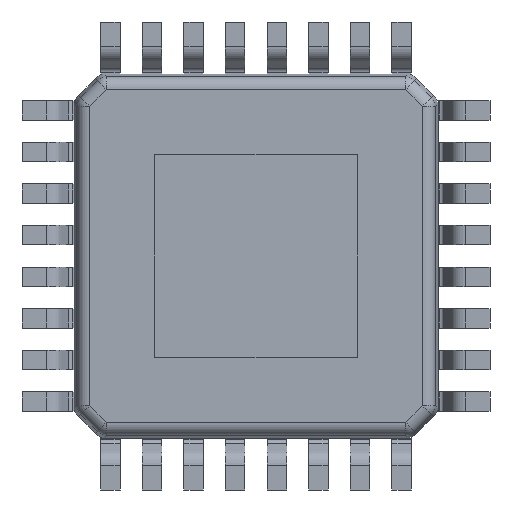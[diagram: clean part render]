
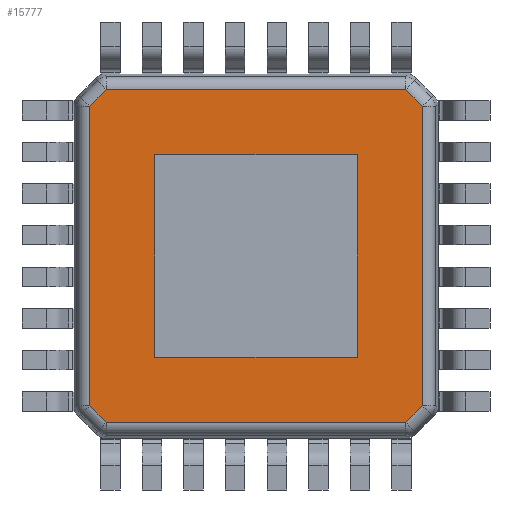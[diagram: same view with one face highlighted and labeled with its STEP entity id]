
A CAD part, front view. The second image highlights one B-rep face of the part: STEP entity #15777.
In plain terms, the highlighted planar face has unit normal (0, -1, 0).
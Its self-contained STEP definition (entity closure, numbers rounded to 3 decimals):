
#15706 = CARTESIAN_POINT ( 'NONE',  ( -3.201, 0.05, 2.876 ) ) ;
#15707 = VERTEX_POINT ( 'NONE', #15706 ) ;
#15708 = CARTESIAN_POINT ( 'NONE',  ( -3.201, 0.05, -2.876 ) ) ;
#15709 = VERTEX_POINT ( 'NONE', #15708 ) ;
#15710 = CARTESIAN_POINT ( 'NONE',  ( -3.201, 0.05, 0. ) ) ;
#15711 = DIRECTION ( 'NONE',  ( 0., 0., -1. ) ) ;
#15712 = VECTOR ( 'NONE', #15711, 1000. ) ;
#15713 = LINE ( 'NONE', #15710, #15712 ) ;
#15714 = EDGE_CURVE ( 'NONE', #15707, #15709, #15713, .T. ) ;
#15715 = ORIENTED_EDGE ( 'NONE', *, *, #15714, .T. ) ;
#15716 = CARTESIAN_POINT ( 'NONE',  ( -2.876, 0.05, -3.201 ) ) ;
#15717 = VERTEX_POINT ( 'NONE', #15716 ) ;
#15718 = CARTESIAN_POINT ( 'NONE',  ( -3.039, 0.05, -3.039 ) ) ;
#15719 = DIRECTION ( 'NONE',  ( 0.707, 0., -0.707 ) ) ;
#15720 = VECTOR ( 'NONE', #15719, 1000. ) ;
#15721 = LINE ( 'NONE', #15718, #15720 ) ;
#15722 = EDGE_CURVE ( 'NONE', #15709, #15717, #15721, .T. ) ;
#15723 = ORIENTED_EDGE ( 'NONE', *, *, #15722, .T. ) ;
#15724 = CARTESIAN_POINT ( 'NONE',  ( 2.876, 0.05, -3.201 ) ) ;
#15725 = VERTEX_POINT ( 'NONE', #15724 ) ;
#15726 = CARTESIAN_POINT ( 'NONE',  ( 0., 0.05, -3.201 ) ) ;
#15727 = DIRECTION ( 'NONE',  ( 1., 0., 0. ) ) ;
#15728 = VECTOR ( 'NONE', #15727, 1000. ) ;
#15729 = LINE ( 'NONE', #15726, #15728 ) ;
#15730 = EDGE_CURVE ( 'NONE', #15717, #15725, #15729, .T. ) ;
#15731 = ORIENTED_EDGE ( 'NONE', *, *, #15730, .T. ) ;
#15732 = CARTESIAN_POINT ( 'NONE',  ( 3.201, 0.05, -2.876 ) ) ;
#15733 = VERTEX_POINT ( 'NONE', #15732 ) ;
#15734 = CARTESIAN_POINT ( 'NONE',  ( 3.039, 0.05, -3.039 ) ) ;
#15735 = DIRECTION ( 'NONE',  ( 0.707, 0., 0.707 ) ) ;
#15736 = VECTOR ( 'NONE', #15735, 1000. ) ;
#15737 = LINE ( 'NONE', #15734, #15736 ) ;
#15738 = EDGE_CURVE ( 'NONE', #15725, #15733, #15737, .T. ) ;
#15739 = ORIENTED_EDGE ( 'NONE', *, *, #15738, .T. ) ;
#15740 = CARTESIAN_POINT ( 'NONE',  ( 3.201, 0.05, 2.876 ) ) ;
#15741 = VERTEX_POINT ( 'NONE', #15740 ) ;
#15742 = CARTESIAN_POINT ( 'NONE',  ( 3.201, 0.05, 0. ) ) ;
#15743 = DIRECTION ( 'NONE',  ( 0., 0., 1. ) ) ;
#15744 = VECTOR ( 'NONE', #15743, 1000. ) ;
#15745 = LINE ( 'NONE', #15742, #15744 ) ;
#15746 = EDGE_CURVE ( 'NONE', #15733, #15741, #15745, .T. ) ;
#15747 = ORIENTED_EDGE ( 'NONE', *, *, #15746, .T. ) ;
#15748 = CARTESIAN_POINT ( 'NONE',  ( 2.876, 0.05, 3.201 ) ) ;
#15749 = VERTEX_POINT ( 'NONE', #15748 ) ;
#15750 = CARTESIAN_POINT ( 'NONE',  ( 3.039, 0.05, 3.039 ) ) ;
#15751 = DIRECTION ( 'NONE',  ( -0.707, 0., 0.707 ) ) ;
#15752 = VECTOR ( 'NONE', #15751, 1000. ) ;
#15753 = LINE ( 'NONE', #15750, #15752 ) ;
#15754 = EDGE_CURVE ( 'NONE', #15741, #15749, #15753, .T. ) ;
#15755 = ORIENTED_EDGE ( 'NONE', *, *, #15754, .T. ) ;
#15756 = CARTESIAN_POINT ( 'NONE',  ( -2.876, 0.05, 3.201 ) ) ;
#15757 = VERTEX_POINT ( 'NONE', #15756 ) ;
#15758 = CARTESIAN_POINT ( 'NONE',  ( 0., 0.05, 3.201 ) ) ;
#15759 = DIRECTION ( 'NONE',  ( -1., 0., 0. ) ) ;
#15760 = VECTOR ( 'NONE', #15759, 1000. ) ;
#15761 = LINE ( 'NONE', #15758, #15760 ) ;
#15762 = EDGE_CURVE ( 'NONE', #15749, #15757, #15761, .T. ) ;
#15763 = ORIENTED_EDGE ( 'NONE', *, *, #15762, .T. ) ;
#15764 = CARTESIAN_POINT ( 'NONE',  ( -3.039, 0.05, 3.039 ) ) ;
#15765 = DIRECTION ( 'NONE',  ( -0.707, 0., -0.707 ) ) ;
#15766 = VECTOR ( 'NONE', #15765, 1000. ) ;
#15767 = LINE ( 'NONE', #15764, #15766 ) ;
#15768 = EDGE_CURVE ( 'NONE', #15757, #15707, #15767, .T. ) ;
#15769 = ORIENTED_EDGE ( 'NONE', *, *, #15768, .T. ) ;
#15770 = EDGE_LOOP ( 'NONE', ( #15715, #15723, #15731, #15739, #15747, #15755, #15763, #15769 ) ) ;
#15771 = FACE_OUTER_BOUND ( 'NONE', #15770, .T. ) ;
#15772 = CARTESIAN_POINT ( 'NONE',  ( 0., 0.05, 0. ) ) ;
#15773 = DIRECTION ( 'NONE',  ( 0., -1., 0. ) ) ;
#15774 = DIRECTION ( 'NONE',  ( 0., 0., -1. ) ) ;
#15775 = AXIS2_PLACEMENT_3D ( 'NONE', #15772, #15773, #15774 ) ;
#15776 = PLANE ( 'NONE', #15775 ) ;
#15777 = ADVANCED_FACE ( 'NONE', ( #15771 ), #15776, .T. ) ;
